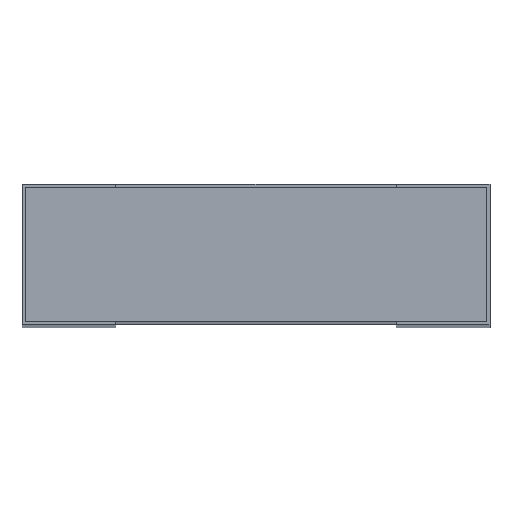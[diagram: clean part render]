
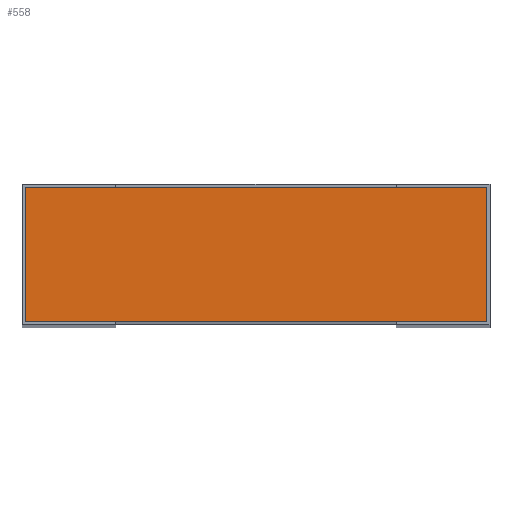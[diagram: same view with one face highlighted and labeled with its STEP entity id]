
A CAD part, top view. The second image highlights one B-rep face of the part: STEP entity #558.
In plain terms, the highlighted planar face has unit normal (0, 0, 1).
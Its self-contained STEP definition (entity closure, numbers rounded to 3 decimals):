
#18=FACE_OUTER_BOUND('',#50,.T.);
#50=EDGE_LOOP('',(#349,#350,#351,#352));
#84=LINE('',#773,#156);
#85=LINE('',#776,#157);
#86=LINE('',#778,#158);
#87=LINE('',#779,#159);
#156=VECTOR('',#633,0.572);
#157=VECTOR('',#636,1.972);
#158=VECTOR('',#637,1.972);
#159=VECTOR('',#638,0.572);
#226=VERTEX_POINT('',#767);
#228=VERTEX_POINT('',#771);
#229=VERTEX_POINT('',#775);
#230=VERTEX_POINT('',#777);
#276=EDGE_CURVE('',#226,#228,#84,.T.);
#277=EDGE_CURVE('',#226,#229,#85,.T.);
#278=EDGE_CURVE('',#230,#228,#86,.T.);
#279=EDGE_CURVE('',#229,#230,#87,.T.);
#349=ORIENTED_EDGE('',*,*,#277,.F.);
#350=ORIENTED_EDGE('',*,*,#276,.T.);
#351=ORIENTED_EDGE('',*,*,#278,.F.);
#352=ORIENTED_EDGE('',*,*,#279,.F.);
#490=PLANE('',#595);
#558=ADVANCED_FACE('',(#18),#490,.T.);
#595=AXIS2_PLACEMENT_3D('',#774,#634,#635);
#633=DIRECTION('',(0.,1.,0.));
#634=DIRECTION('center_axis',(0.,0.,1.));
#635=DIRECTION('ref_axis',(1.,0.,0.));
#636=DIRECTION('',(-1.,0.,0.));
#637=DIRECTION('',(1.,0.,0.));
#638=DIRECTION('',(0.,1.,0.));
#767=CARTESIAN_POINT('',(1.972,0.,7.472));
#771=CARTESIAN_POINT('',(1.972,0.572,7.472));
#773=CARTESIAN_POINT('',(1.972,0.,7.472));
#774=CARTESIAN_POINT('Origin',(0.,0.,7.472));
#775=CARTESIAN_POINT('',(0.,0.,7.472));
#776=CARTESIAN_POINT('',(1.972,0.,7.472));
#777=CARTESIAN_POINT('',(0.,0.572,7.472));
#778=CARTESIAN_POINT('',(1.972,0.572,7.472));
#779=CARTESIAN_POINT('',(0.,0.,7.472));
